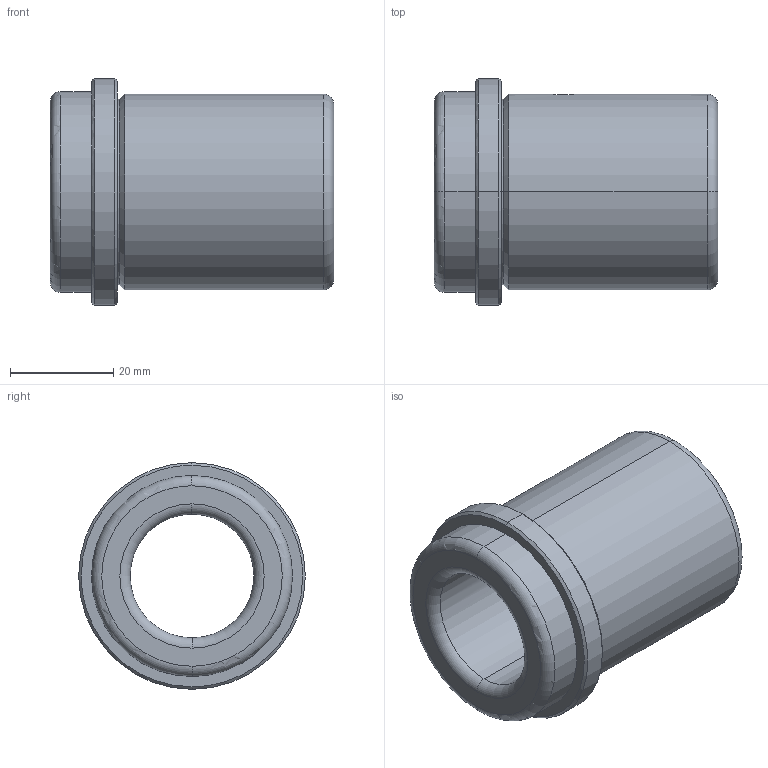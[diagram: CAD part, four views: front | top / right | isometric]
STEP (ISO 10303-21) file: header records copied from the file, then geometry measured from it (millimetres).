
FILE_DESCRIPTION(('CATIA V5 STEP Exchange'),'2;1');
FILE_NAME('C:\Users\Utente\Desktop\IO LAVORO\3D X SITO CF\X SITO\FAMO\FAMO-SF1-B24 x 55.stp','2021-01-06T17:13:03+00:00',('none'),('none'),'CATIA Version 5 Release 20 GA (IN-10)','CATIA V5 STEP AP203','none');
FILE_SCHEMA(('CONFIG_CONTROL_DESIGN'));
Length unit declared in the file: millimetre
Products named in the file (1): FAMO-SF1-B24 x 55
Bounding box: 55 x 44 x 44 mm (x, y, z)
Volume: 39066.5 mm3; surface area: 12944.7 mm2
Topology: 1 solids, 1 shells, 33 faces, 106 edges, 78 vertices
Faces by surface type: cylinder 12, torus 8, cone 8, plane 5
Entity records: 1438 total; most frequent: CARTESIAN_POINT 458, ORIENTED_EDGE 212, DIRECTION 158, AXIS2_PLACEMENT_3D 106, EDGE_CURVE 106, VERTEX_POINT 78, CIRCLE 72, EDGE_LOOP 40
